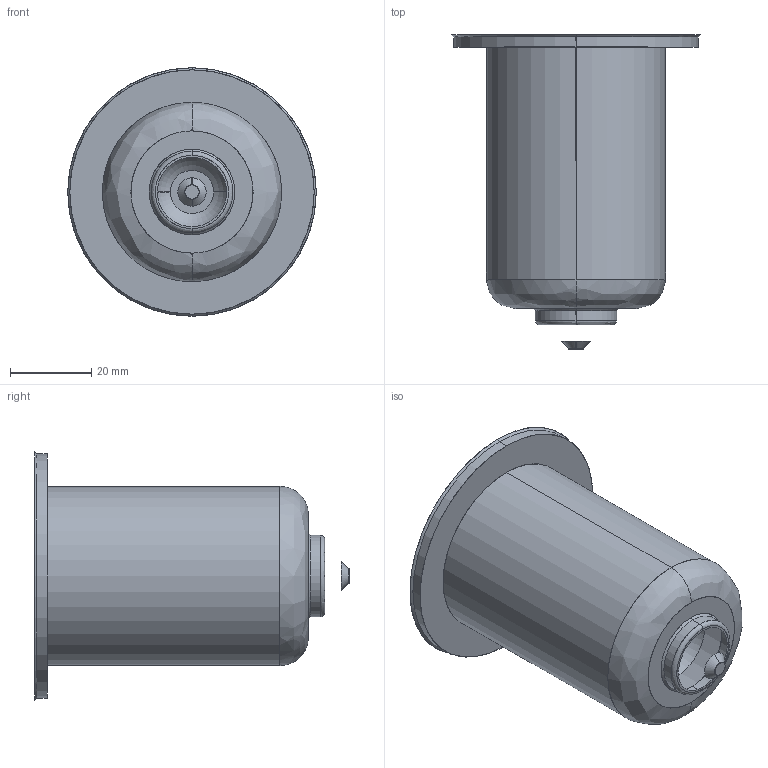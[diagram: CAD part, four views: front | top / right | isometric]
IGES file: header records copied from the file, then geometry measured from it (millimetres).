
Start section: SolidWorks IGES file using analytic representation for surfaces
Global section: file name: C:\Documents and Settings\ws-20\Desktop\TEM\Sede UGEP6003-M-A C-74 L-99 Ød-3.5.IGS; native system: SolidWorks 2012; preprocessor: SolidWorks 2012; author: ws-20; date: 120427.103251; units: millimetre
Bounding box: 61 x 77.19 x 61 mm (x, y, z)
Surface area: 15137.8 mm2 (no closed solid volume)
Topology: 0 solids, 0 shells, 25 faces, 468 edges, 468 vertices
Faces by surface type: revolution 16, bspline 9
